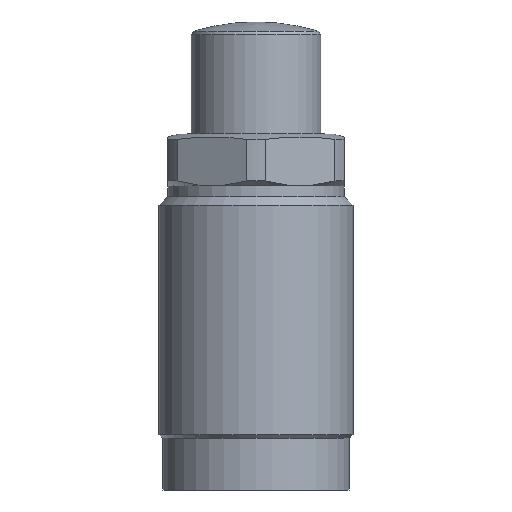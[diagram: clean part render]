
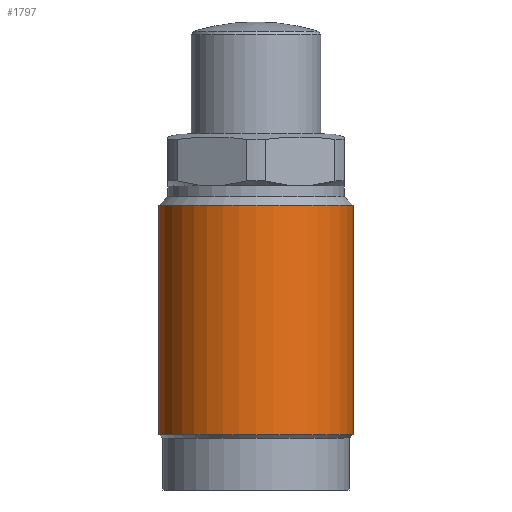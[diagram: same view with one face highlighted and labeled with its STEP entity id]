
A CAD part, front view. The second image highlights one B-rep face of the part: STEP entity #1797.
In plain terms, the highlighted cylindrical face has radius 22.5 mm (diameter 45 mm), a partial arc.
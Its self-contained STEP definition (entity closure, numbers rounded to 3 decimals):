
#113 = ORIENTED_EDGE ( 'NONE', *, *, #1930, .F. ) ;
#114 = ORIENTED_EDGE ( 'NONE', *, *, #1776, .T. ) ;
#115 = ORIENTED_EDGE ( 'NONE', *, *, #1931, .T. ) ;
#116 = ORIENTED_EDGE ( 'NONE', *, *, #1777, .F. ) ;
#226 = EDGE_LOOP ( 'NONE', ( #113, #114, #115, #116 ) ) ;
#751 = CARTESIAN_POINT ( 'NONE',  ( 0., 0., -69.65 ) ) ;
#752 = DIRECTION ( 'NONE',  ( 0., 0., 1. ) ) ;
#753 = DIRECTION ( 'NONE',  ( 1., 0., 0. ) ) ;
#754 = CARTESIAN_POINT ( 'NONE',  ( 0., 0., -16.5 ) ) ;
#755 = DIRECTION ( 'NONE',  ( 0., 0., 1. ) ) ;
#756 = DIRECTION ( 'NONE',  ( 1., 0., 0. ) ) ;
#863 = DIRECTION ( 'NONE',  ( 0., 0., 1. ) ) ;
#865 = FACE_OUTER_BOUND ( 'NONE', #226, .T. ) ;
#866 = CARTESIAN_POINT ( 'NONE',  ( 0., 0., 5.219 ) ) ;
#868 = CYLINDRICAL_SURFACE ( 'NONE', #888, 22.5 ) ;
#869 = DIRECTION ( 'NONE',  ( 1., 0., 0. ) ) ;
#888 = AXIS2_PLACEMENT_3D ( 'NONE', #866, #863, #869 ) ;
#1037 = VECTOR ( 'NONE', #1288, 1000. ) ;
#1043 = VECTOR ( 'NONE', #1291, 1000. ) ;
#1278 = CARTESIAN_POINT ( 'NONE',  ( -22.5, 0., 5.219 ) ) ;
#1284 = LINE ( 'NONE', #1278, #1037 ) ;
#1288 = DIRECTION ( 'NONE',  ( 0., 0., 1. ) ) ;
#1289 = LINE ( 'NONE', #1290, #1043 ) ;
#1290 = CARTESIAN_POINT ( 'NONE',  ( 22.5, 0., 5.219 ) ) ;
#1291 = DIRECTION ( 'NONE',  ( 0., 0., 1. ) ) ;
#1307 = CARTESIAN_POINT ( 'NONE',  ( 22.5, 0., -16.5 ) ) ;
#1311 = CARTESIAN_POINT ( 'NONE',  ( -22.5, 0., -69.65 ) ) ;
#1330 = CARTESIAN_POINT ( 'NONE',  ( 22.5, 0., -69.65 ) ) ;
#1331 = CARTESIAN_POINT ( 'NONE',  ( -22.5, 0., -16.5 ) ) ;
#1639 = AXIS2_PLACEMENT_3D ( 'NONE', #754, #755, #756 ) ;
#1776 = EDGE_CURVE ( 'NONE', #2019, #2048, #1909, .T. ) ;
#1777 = EDGE_CURVE ( 'NONE', #2050, #2022, #1902, .T. ) ;
#1797 = ADVANCED_FACE ( 'NONE', ( #865 ), #868, .T. ) ;
#1902 = CIRCLE ( 'NONE', #1639, 22.5 ) ;
#1903 = AXIS2_PLACEMENT_3D ( 'NONE', #751, #752, #753 ) ;
#1909 = CIRCLE ( 'NONE', #1903, 22.5 ) ;
#1930 = EDGE_CURVE ( 'NONE', #2019, #2050, #1284, .T. ) ;
#1931 = EDGE_CURVE ( 'NONE', #2048, #2022, #1289, .T. ) ;
#2019 = VERTEX_POINT ( 'NONE', #1311 ) ;
#2022 = VERTEX_POINT ( 'NONE', #1307 ) ;
#2048 = VERTEX_POINT ( 'NONE', #1330 ) ;
#2050 = VERTEX_POINT ( 'NONE', #1331 ) ;
